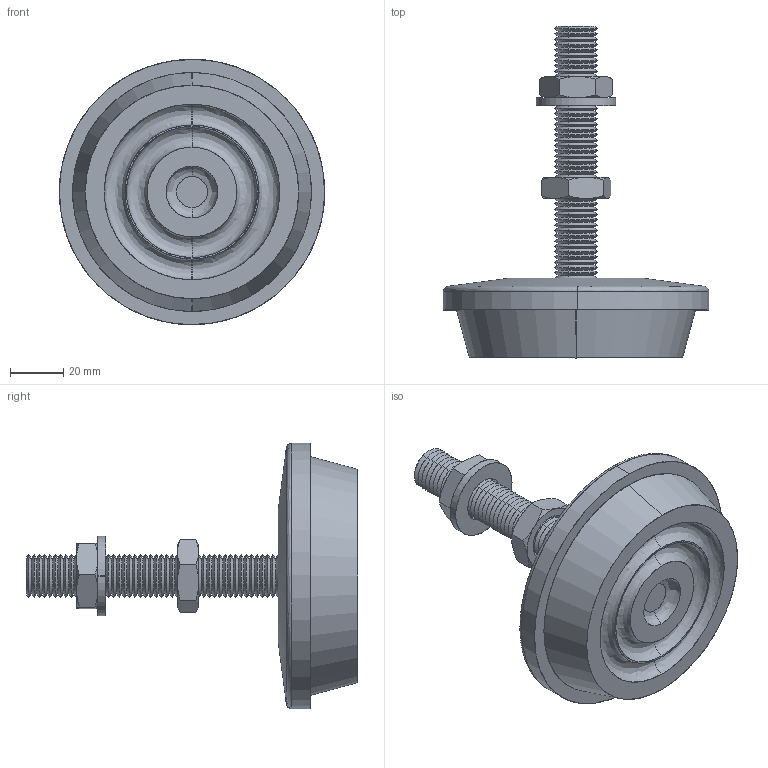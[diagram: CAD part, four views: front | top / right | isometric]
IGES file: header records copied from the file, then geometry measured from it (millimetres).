
Start section: SolidWorks IGES file using analytic representation for surfaces
Global section: file name: C:\Documents and Settings\IANO\Desktop\Temp File\Process pending\EXISTING\34930_v2\34930_v2_20170626_IGES\34930.W0400.igs; native system: SolidWorks 2009; preprocessor: SolidWorks 2009; author: IANO; date: 170626.131618; units: millimetre
Bounding box: 100 x 125 x 100 mm (x, y, z)
Surface area: 49053.6 mm2 (no closed solid volume)
Topology: 0 solids, 0 shells, 278 faces, 2682 edges, 2682 vertices
Faces by surface type: revolution 243, bspline 35
